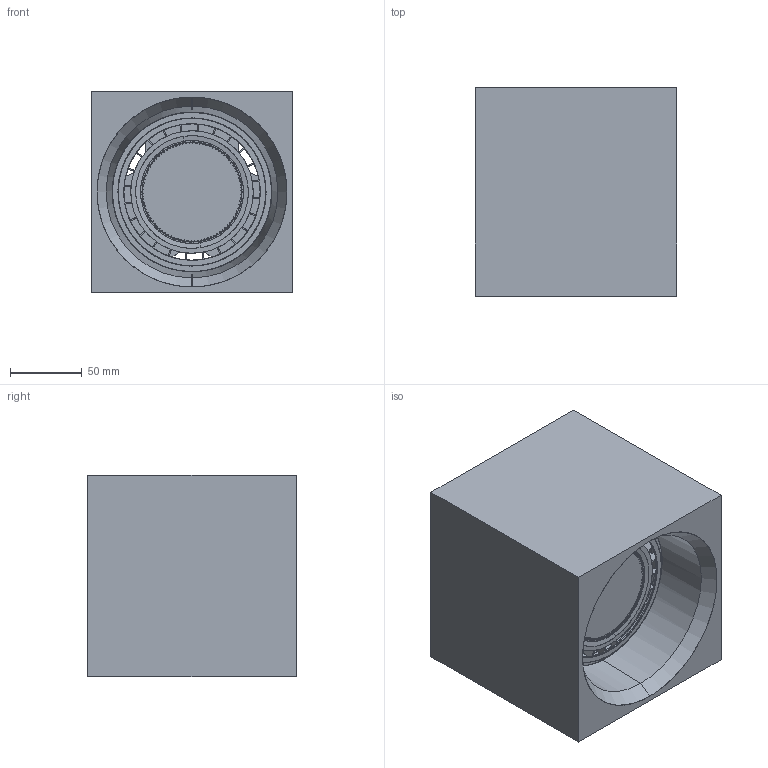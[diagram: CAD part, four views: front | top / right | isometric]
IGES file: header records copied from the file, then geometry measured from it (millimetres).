
Start section: SolidWorks IGES file using analytic representation for surfaces
Global section: file name: E:\3D lampy\Bold\Bold_9392.IGS; native system: SolidWorks 2017; preprocessor: SolidWorks 2017; author: Asia; date: 180124.104357; units: millimetre
Bounding box: 140 x 145 x 140 mm (x, y, z)
Surface area: 232679 mm2 (no closed solid volume)
Topology: 0 solids, 0 shells, 2123 faces, 21030 edges, 21023 vertices
Faces by surface type: bspline 1721, revolution 402
